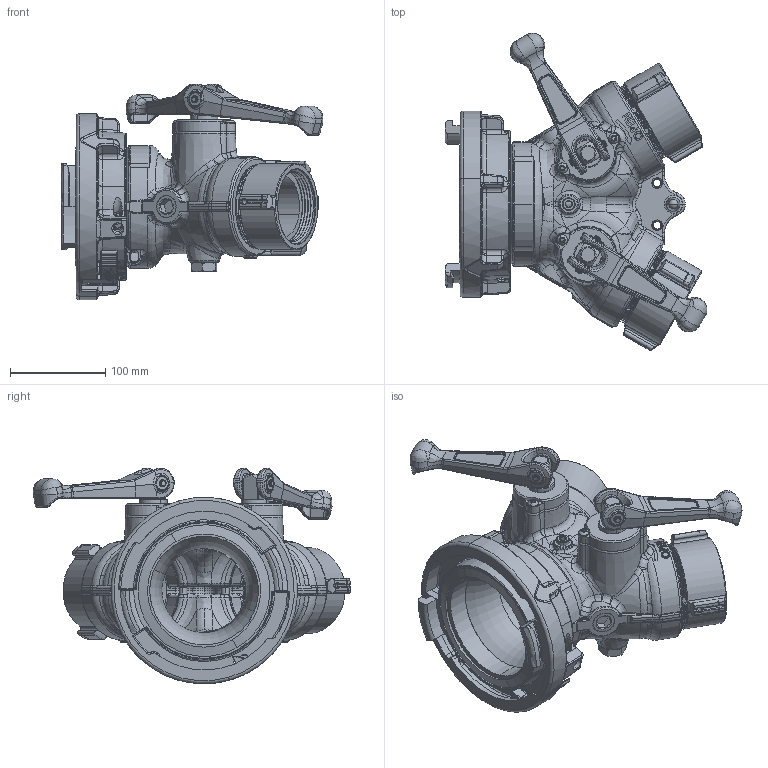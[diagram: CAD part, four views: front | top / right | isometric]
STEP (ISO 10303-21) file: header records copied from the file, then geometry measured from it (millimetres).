
FILE_DESCRIPTION (( 'STEP AP203' ), '1' );
FILE_NAME ('AY9ST-NJ.step', '2014-05-13T19:28:00', ( 'user' ), ( '' ), 'SwSTEP 2.0', 'SolidWorks 2012', '' );
FILE_SCHEMA (( 'CONFIG_CONTROL_DESIGN' ));
Length unit declared in the file: inch
Products named in the file (1): AY9ST-NJ
Bounding box: 275.37 x 333.88 x 226.63 mm (x, y, z)
Surface area: 406438.8 mm2 (no closed solid volume)
Topology: 0 solids, 57 shells, 2708 faces, 8949 edges, 6078 vertices
Faces by surface type: bspline 830, cylinder 649, plane 533, cone 369, torus 279, sphere 48
Entity records: 160069 total; most frequent: CARTESIAN_POINT 93724, ORIENTED_EDGE 14830, DIRECTION 10923, EDGE_CURVE 8930, VERTEX_POINT 6078, AXIS2_PLACEMENT_3D 4128, B_SPLINE_CURVE_WITH_KNOTS 3271, EDGE_LOOP 2870
